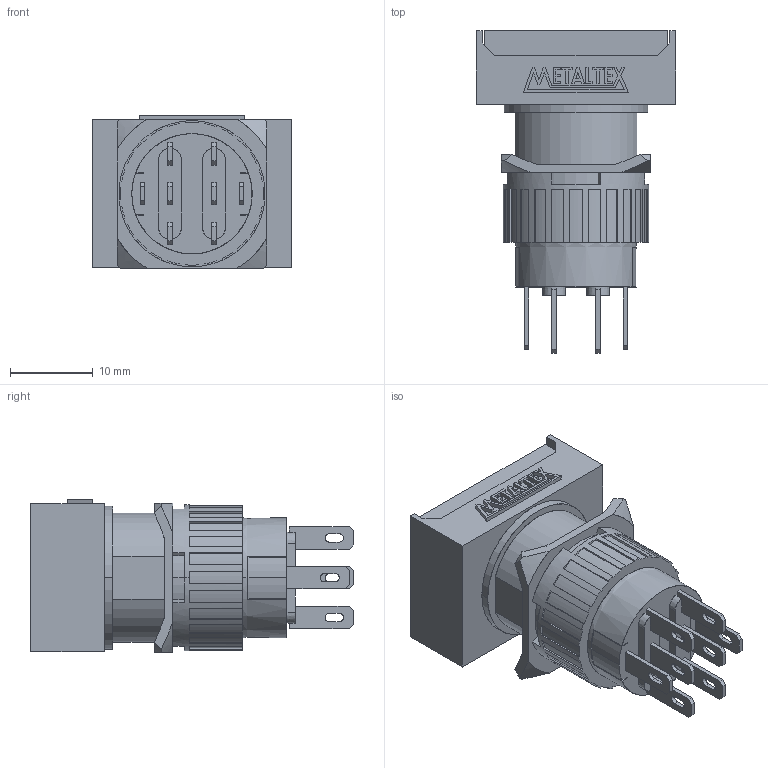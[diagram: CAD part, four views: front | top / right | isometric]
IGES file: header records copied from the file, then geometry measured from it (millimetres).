
Start section: SolidWorks IGES file using analytic representation for surfaces
Global section: file name: D:\X - Arquivos\PROEX\Empresas\P11 - METALTEX\01 - Produtos\IGES\Terceira remessa\Etapa 3\P16-BL.IGS; native system: SolidWorks 2012; preprocessor: SolidWorks 2012; author: Usuario; date: 180215.132043; units: millimetre
Bounding box: 24 x 38.9 x 18.43 mm (x, y, z)
Surface area: 4667.1 mm2 (no closed solid volume)
Topology: 0 solids, 0 shells, 399 faces, 2752 edges, 2752 vertices
Faces by surface type: bspline 314, revolution 85
